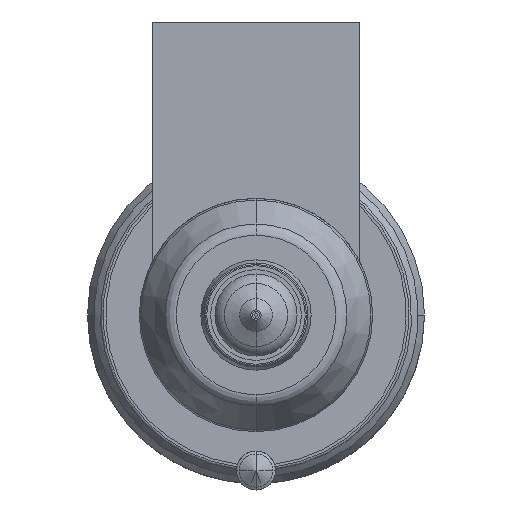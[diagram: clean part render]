
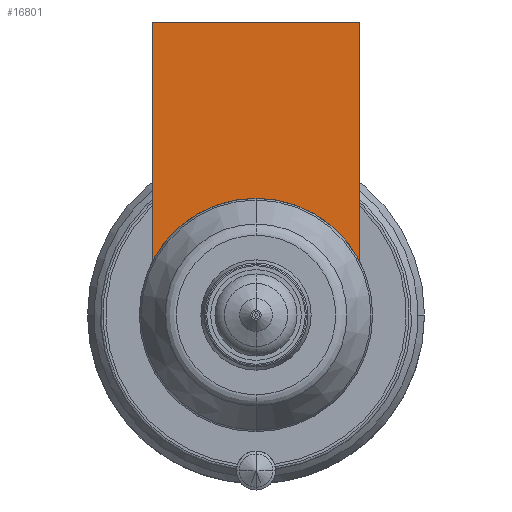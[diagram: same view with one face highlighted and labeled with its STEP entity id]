
A CAD part, front view. The second image highlights one B-rep face of the part: STEP entity #16801.
In plain terms, the highlighted planar face has unit normal (0, -1, 0).
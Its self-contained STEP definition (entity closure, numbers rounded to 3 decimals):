
#15383=DIRECTION('',(0.,0.,-1.));
#15384=VECTOR('',#15383,18.481);
#15385=CARTESIAN_POINT('',(-8.,-54.,22.604));
#15386=LINE('',#15385,#15384);
#15981=CARTESIAN_POINT('',(0.,-54.,0.));
#15982=DIRECTION('',(0.,-1.,0.));
#15983=DIRECTION('',(0.,0.,1.));
#15984=AXIS2_PLACEMENT_3D('',#15981,#15982,#15983);
#15989=DIRECTION('',(1.,0.,0.));
#15990=VECTOR('',#15989,16.);
#15991=CARTESIAN_POINT('',(-8.,-54.,22.604));
#15992=LINE('',#15991,#15990);
#15996=CARTESIAN_POINT('',(0.,-54.,0.));
#15997=DIRECTION('',(0.,-1.,0.));
#15998=DIRECTION('',(0.889,0.,0.458));
#15999=AXIS2_PLACEMENT_3D('',#15996,#15997,#15998);
#16082=DIRECTION('',(0.,0.,-1.));
#16083=VECTOR('',#16082,18.481);
#16084=CARTESIAN_POINT('',(8.,-54.,22.604));
#16085=LINE('',#16084,#16083);
#16187=CARTESIAN_POINT('',(-8.,-54.,22.604));
#16188=VERTEX_POINT('',#16187);
#16193=CARTESIAN_POINT('',(8.,-54.,22.604));
#16194=VERTEX_POINT('',#16193);
#16196=CARTESIAN_POINT('',(-8.,-54.,4.123));
#16198=VERTEX_POINT('',#16196);
#16200=CARTESIAN_POINT('',(8.,-54.,4.123));
#16202=VERTEX_POINT('',#16200);
#16203=CARTESIAN_POINT('',(0.,-54.,9.));
#16204=VERTEX_POINT('',#16203);
#16787=CARTESIAN_POINT('',(-8.,-54.,22.604));
#16788=DIRECTION('',(0.,-1.,0.));
#16789=DIRECTION('',(0.,0.,-1.));
#16790=AXIS2_PLACEMENT_3D('',#16787,#16788,#16789);
#16791=PLANE('',#16790);
#16792=ORIENTED_EDGE('',*,*,#16244,.T.);
#16793=ORIENTED_EDGE('',*,*,#16227,.F.);
#16795=ORIENTED_EDGE('',*,*,#16794,.T.);
#16797=ORIENTED_EDGE('',*,*,#16796,.T.);
#16798=ORIENTED_EDGE('',*,*,#16292,.T.);
#16799=EDGE_LOOP('',(#16792,#16793,#16795,#16797,#16798));
#16800=FACE_OUTER_BOUND('',#16799,.F.);
#16801=ADVANCED_FACE('',(#16800),#16791,.T.);
#15985=CIRCLE('',#15984,9.);
#16000=CIRCLE('',#15999,9.);
#16227=EDGE_CURVE('',#16188,#16198,#15386,.T.);
#16244=EDGE_CURVE('',#16204,#16198,#15985,.T.);
#16292=EDGE_CURVE('',#16202,#16204,#16000,.T.);
#16794=EDGE_CURVE('',#16188,#16194,#15992,.T.);
#16796=EDGE_CURVE('',#16194,#16202,#16085,.T.);
